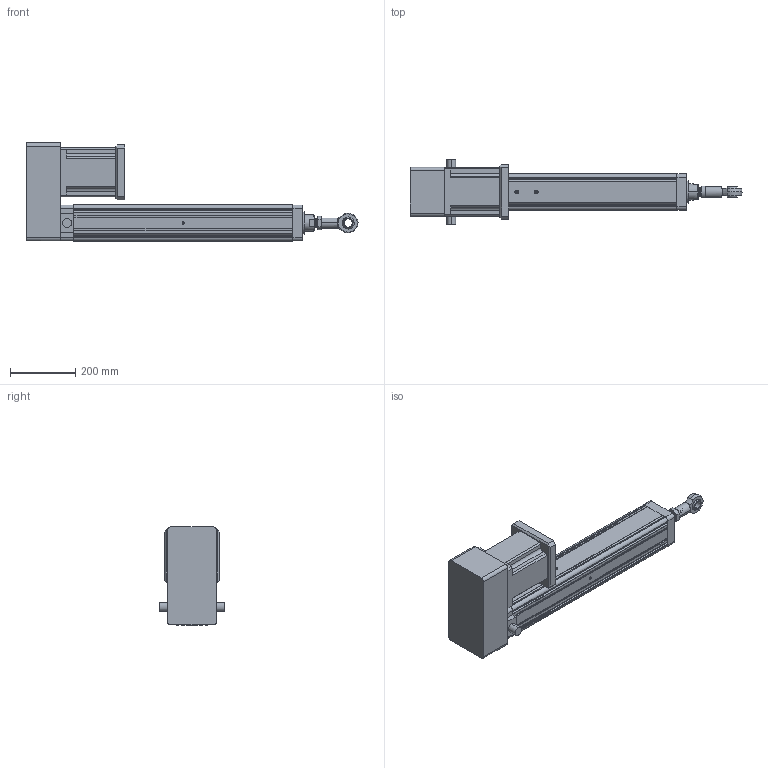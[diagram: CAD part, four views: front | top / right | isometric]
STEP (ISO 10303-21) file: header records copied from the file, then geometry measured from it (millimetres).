
FILE_DESCRIPTION (( 'STEP AP203' ), '1' );
FILE_NAME ('YRJ110-L500-H4K3.STEP', '2020-01-06T01:24:12', ( 'User' ), ( 'China' ), 'SwSTEP 2.0', 'SolidWorks 2016', '' );
FILE_SCHEMA (( 'CONFIG_CONTROL_DESIGN' ));
Length unit declared in the file: millimetre
Products named in the file (11): 萇儂碟-110; K1-110; _BNC01-SI25T_K-R-001; _BNC01-SI25T_K-R-002; BNC01-SI25T_K-R; 095-100俴最倰第; K3-110; 142熬厒儂; YRJ110-L500-H4K3; H5-110-1; H5-110-2
Assembly tree (10 placements, depth 4):
  YRJ110-L500-H4K3
    095-100俴最倰第
    142熬厒儂
    H5-110-1
    H5-110-2
    萇儂碟-110
    K3-110
      K1-110
      BNC01-SI25T_K-R
        _BNC01-SI25T_K-R-001
        _BNC01-SI25T_K-R-002
Bounding box: 1015 x 200 x 300.5 mm (x, y, z)
Volume: 12692987.3 mm3; surface area: 1102955.1 mm2
Topology: 8 solids, 8 shells, 401 faces, 1101 edges, 709 vertices
Faces by surface type: plane 187, cylinder 166, cone 34, bspline 14
Entity records: 22833 total; most frequent: CARTESIAN_POINT 11715, ORIENTED_EDGE 2146, DIRECTION 2000, EDGE_CURVE 1073, VERTEX_POINT 709, AXIS2_PLACEMENT_3D 674, LINE 652, VECTOR 652
